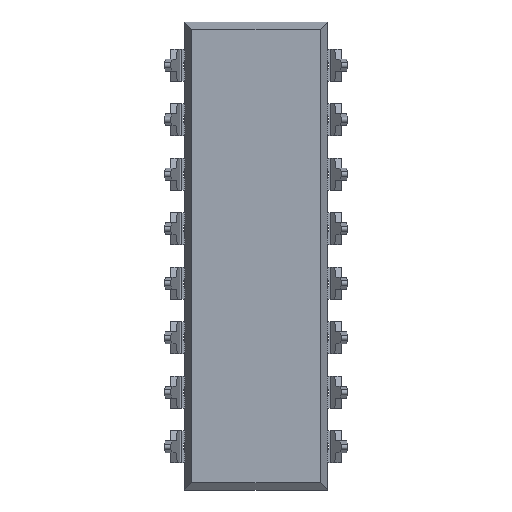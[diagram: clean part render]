
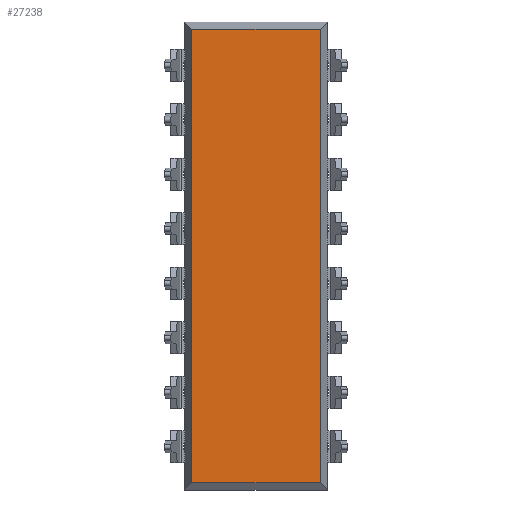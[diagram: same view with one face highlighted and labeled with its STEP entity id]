
A CAD part, front view. The second image highlights one B-rep face of the part: STEP entity #27238.
In plain terms, the highlighted planar face has unit normal (0, -1, 0).
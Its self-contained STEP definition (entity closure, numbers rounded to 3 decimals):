
#2628 = EDGE_CURVE ( 'NONE', #24570, #2705, #17067, .T. ) ;
#2705 = VERTEX_POINT ( 'NONE', #15544 ) ;
#2968 = ORIENTED_EDGE ( 'NONE', *, *, #15450, .T. ) ;
#3168 = DIRECTION ( 'NONE',  ( -1., 0., 0. ) ) ;
#3344 = VERTEX_POINT ( 'NONE', #10220 ) ;
#3425 = CARTESIAN_POINT ( 'NONE',  ( 2.997, 0., 21.472 ) ) ;
#3676 = CARTESIAN_POINT ( 'NONE',  ( 2.997, 0., 0.328 ) ) ;
#3926 = DIRECTION ( 'NONE',  ( 0., 0., -1. ) ) ;
#5053 = DIRECTION ( 'NONE',  ( 0., 0., -1. ) ) ;
#5515 = VECTOR ( 'NONE', #5053, 1000. ) ;
#6443 = DIRECTION ( 'NONE',  ( -1., 0., 0. ) ) ;
#7044 = ORIENTED_EDGE ( 'NONE', *, *, #2628, .F. ) ;
#7328 = CARTESIAN_POINT ( 'NONE',  ( -2.997, 0., 21.8 ) ) ;
#8376 = VERTEX_POINT ( 'NONE', #3425 ) ;
#9395 = AXIS2_PLACEMENT_3D ( 'NONE', #7328, #15868, #24417 ) ;
#9556 = VECTOR ( 'NONE', #6443, 1000. ) ;
#10220 = CARTESIAN_POINT ( 'NONE',  ( -2.997, 0., 21.472 ) ) ;
#12649 = VECTOR ( 'NONE', #3926, 1000. ) ;
#13789 = LINE ( 'NONE', #22337, #22165 ) ;
#14546 = LINE ( 'NONE', #23098, #12649 ) ;
#15352 = ORIENTED_EDGE ( 'NONE', *, *, #24779, .F. ) ;
#15450 = EDGE_CURVE ( 'NONE', #8376, #3344, #13789, .T. ) ;
#15544 = CARTESIAN_POINT ( 'NONE',  ( -2.997, 0., 0.328 ) ) ;
#15682 = LINE ( 'NONE', #24226, #5515 ) ;
#15868 = DIRECTION ( 'NONE',  ( 0., 1., 0. ) ) ;
#17067 = LINE ( 'NONE', #25625, #9556 ) ;
#17960 = FACE_OUTER_BOUND ( 'NONE', #19582, .T. ) ;
#18197 = EDGE_CURVE ( 'NONE', #3344, #2705, #14546, .T. ) ;
#19142 = ORIENTED_EDGE ( 'NONE', *, *, #18197, .T. ) ;
#19582 = EDGE_LOOP ( 'NONE', ( #15352, #2968, #19142, #7044 ) ) ;
#22165 = VECTOR ( 'NONE', #3168, 1000. ) ;
#22337 = CARTESIAN_POINT ( 'NONE',  ( 3.325, 0., 21.472 ) ) ;
#23098 = CARTESIAN_POINT ( 'NONE',  ( -2.997, 0., 21.8 ) ) ;
#24226 = CARTESIAN_POINT ( 'NONE',  ( 2.997, 0., 21.8 ) ) ;
#24417 = DIRECTION ( 'NONE',  ( 0., 0., 1. ) ) ;
#24570 = VERTEX_POINT ( 'NONE', #3676 ) ;
#24779 = EDGE_CURVE ( 'NONE', #8376, #24570, #15682, .T. ) ;
#25625 = CARTESIAN_POINT ( 'NONE',  ( 3.325, 0., 0.328 ) ) ;
#26517 = PLANE ( 'NONE',  #9395 ) ;
#27238 = ADVANCED_FACE ( 'NONE', ( #17960 ), #26517, .F. ) ;
